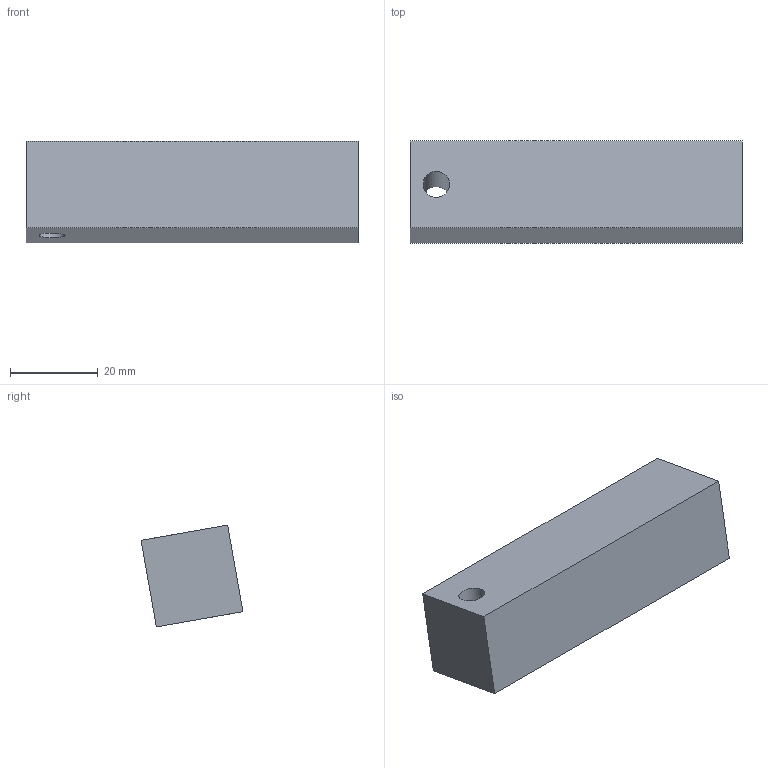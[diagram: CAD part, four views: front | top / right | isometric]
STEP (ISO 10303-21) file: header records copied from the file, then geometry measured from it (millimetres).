
FILE_DESCRIPTION(('golf model'),'2;1');
FILE_NAME('golf','',(''),(''),'golf_step_io','golf','');
FILE_SCHEMA(('AUTOMOTIVE_DESIGN { 1 0 10303 214 1 1 1 1 }'));
Length unit declared in the file: millimetre
Products named in the file (2): ASSEMBLY; y_carriage.rope_anchor
Assembly tree (1 placements, depth 2):
  ASSEMBLY
    y_carriage.rope_anchor
Bounding box: 75.5 x 23.17 x 23.17 mm (x, y, z)
Volume: 29089.8 mm3; surface area: 7480.9 mm2
Topology: 1 solids, 1 shells, 9 faces, 19 edges, 13 vertices
Faces by surface type: plane 7, cylinder 2
Full cylindrical faces by diameter (mm): 6 x1, 6.8 x1
Entity records: 264 total; most frequent: DIRECTION 42, CARTESIAN_POINT 39, ORIENTED_EDGE 32, EDGE_CURVE 16, AXIS2_PLACEMENT_3D 15, EDGE_LOOP 14, VERTEX_POINT 12, VECTOR 12
